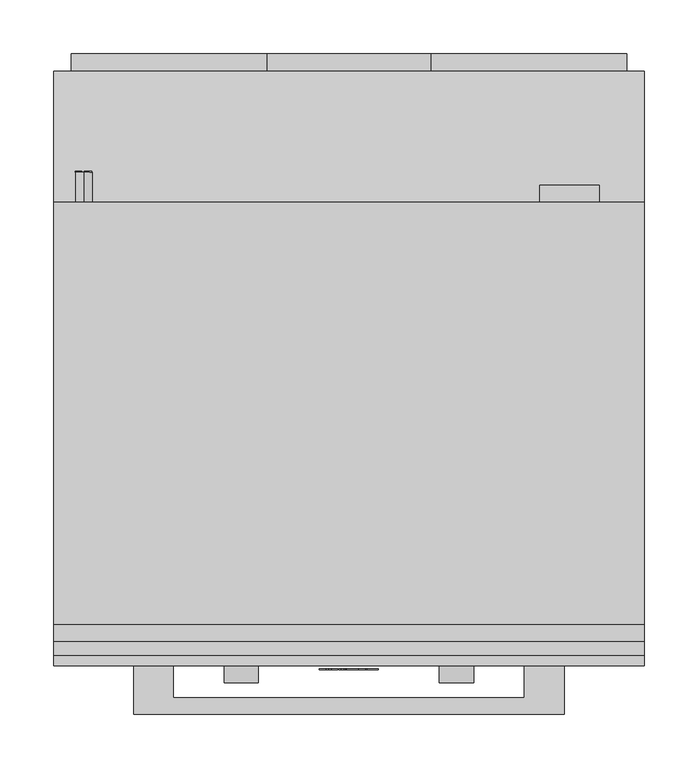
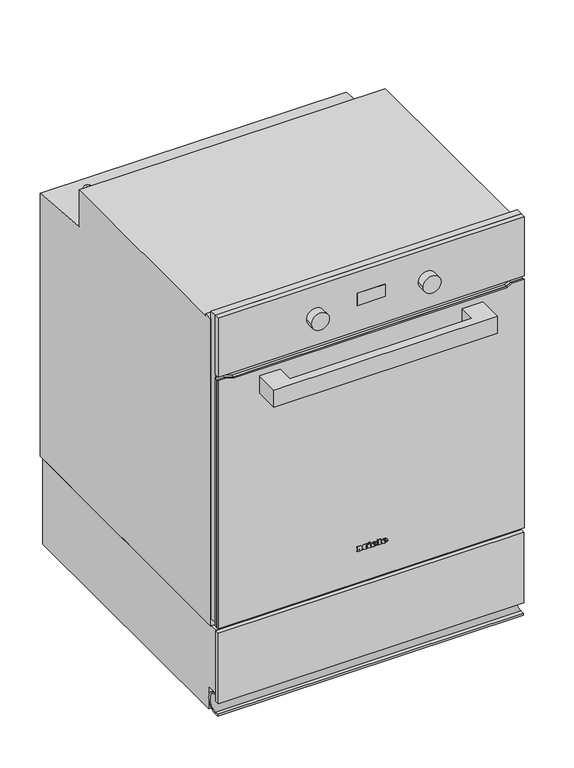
"""IFC4 building model written with IfcOpenShell, lengths in millimetres: proxy geometry, 12446320_9CH_H2456-55BP_OBSW : 22245624_9CH_12446320_H2456-55BP_OBSW."""

from ifc_helpers import new_model, si_unit, point, frame, frame_2d, origin, place, context, project, spatial, polyline, circle_curve, ellipse_curve, trimmed, segment, composite_curve, outline, extrude, faceted_brep, source, transform, mapped, element, save
from ifc_brep_helpers import plane_surface, cylinder_surface, revolved_surface, extruded_surface, advanced_brep


def specialty_equipment_84b892e0(model_context):
    return source(origin(), model_context, "Body", "SolidModel", [
        extrude(outline(polyline([(-273.5, -14.0), (273.5, -14.0), (273.5, -22.0), (-273.5, -22.0), (-273.5, -14.0)])), frame((0.0, 0.0, 28.0), z_axis=(0.0, 0.0, 1.0), x_axis=(1.0, 0.0, 0.0)), (0.0, 0.0, 1.0), 133.5),
        extrude(outline(composite_curve([segment(polyline([(-20.0, 3.3413786), (-20.0, 6.5166751), (-12.6417749, 6.5166751)]), True, "CONTINUOUS"), segment(trimmed(circle_curve(frame_2d((-12.6417749, 23.0333249)), 16.5166498), [point((-12.6417749, 6.5166751))], [point((-11.3579007, 39.5))], True, "CARTESIAN"), True, "CONTINUOUS"), segment(polyline([(-11.3579007, 39.5), (-14.0, 39.5), (-14.0, 42.0), (-12.0, 42.0)]), True, "CONTINUOUS"), segment(trimmed(circle_curve(frame_2d((-12.0, 23.0)), 19.0), [point((-12.0, 42.0))], [point((7.0, 23.0))], False, "CARTESIAN"), True, "CONTINUOUS"), segment(trimmed(circle_curve(frame_2d((-14.9470942, 23.0)), 21.9470942), [point((7.0, 23.0))], [point((3.3965309, 10.9506696))], False, "CARTESIAN"), True, "CONTINUOUS"), segment(trimmed(circle_curve(frame_2d((-12.0, 22.7225846)), 19.381206), [point((3.3965309, 10.9506696))], [point((-12.0, 3.3413786))], False, "CARTESIAN"), True, "CONTINUOUS"), segment(polyline([(-12.0, 3.3413786), (-20.0, 3.3413786)]), True, "CONTINUOUS")], self_intersect=False)), frame((-273.5, 0.0, 0.0), z_axis=(1.0, 0.0, 0.0), x_axis=(0.0, 1.0, 0.0)), (0.0, 0.0, 1.0), 547.0),
        extrude(outline(polyline([(-14.0, 162.0), (522.0, 162.0), (522.0, 0.0), (8.0, 0.0), (8.0, 43.1784801), (-14.0, 43.1784801), (-14.0, 162.0)])), frame((-273.5, 0.0, 0.0), z_axis=(1.0, 0.0, 0.0), x_axis=(0.0, 1.0, 0.0)), (0.0, 0.0, 1.0), 547.0),
        advanced_brep(
        [(21.28, -26.0, 234.133), (21.28, -26.0, 235.042), (27.301, -26.0, 235.042), (16.825, -26.0, 235.042), (19.3, -26.0, 232.0), (27.148, -26.0, 234.133), (24.43, -26.0, 234.133), (22.288, -26.0, 233.125), (21.28, -26.0, 236.194), (21.28, -26.0, 237.175), (22.819, -26.0, 237.175), (22.819, -26.0, 236.194), (21.28, -25.0, 234.133), (22.288, -25.0, 233.125), (24.43, -25.0, 234.133), (27.148, -25.0, 234.133), (19.3, -25.0, 232.0), (16.825, -25.0, 235.042), (27.301, -25.0, 235.042), (21.28, -25.0, 235.042), (21.28, -25.0, 236.194), (22.819, -25.0, 236.194), (22.819, -25.0, 237.175), (21.28, -25.0, 237.175)],
        [
            (0, 1),
            (1, 2),
            (2, 3, ellipse_curve(frame((22.063, -26.0, 235.042), z_axis=(0.0, -1.0, 0.0), x_axis=(-1.0, 0.0, 0.0)), 5.238, 4.329)),
            (3, 4, circle_curve(frame((20.3080491, -26.0, 235.348), z_axis=(0.0, -1.0, 0.0), x_axis=(0.0, 0.0, -1.0)), 3.4964649)),
            (4, 5, circle_curve(frame((21.9581428, -26.0, 237.724), z_axis=(0.0, -1.0, 0.0), x_axis=(0.0, 0.0, -1.0)), 6.3110933)),
            (5, 6),
            (6, 7, circle_curve(frame((22.7279412, -26.0, 234.97), z_axis=(0.0, 1.0, 0.0), x_axis=(0.0, 0.0, -1.0)), 1.896727)),
            (7, 0, circle_curve(frame((22.288, -26.0, 234.133), z_axis=(0.0, 1.0, 0.0), x_axis=(0.0, 0.0, -1.0)), 1.008)),
            (8, 9),
            (9, 10, circle_curve(frame((22.0495, -26.0, 237.175), z_axis=(0.0, 1.0, 0.0), x_axis=(0.0, 0.0, -1.0)), 0.7695)),
            (10, 11),
            (11, 8),
            (12, 13, circle_curve(frame((22.288, -25.0, 234.133), z_axis=(0.0, -1.0, 0.0), x_axis=(0.0, 0.0, -1.0)), 1.008)),
            (13, 14, circle_curve(frame((22.7279412, -25.0, 234.97), z_axis=(0.0, -1.0, 0.0), x_axis=(0.0, 0.0, -1.0)), 1.896727)),
            (14, 15),
            (15, 16, circle_curve(frame((21.9581428, -25.0, 237.724), z_axis=(0.0, 1.0, 0.0), x_axis=(0.0, 0.0, -1.0)), 6.3110933)),
            (16, 17, circle_curve(frame((20.3080491, -25.0, 235.348), z_axis=(0.0, 1.0, 0.0), x_axis=(0.0, 0.0, -1.0)), 3.4964649)),
            (17, 18, ellipse_curve(frame((22.063, -25.0, 235.042), z_axis=(0.0, 1.0, 0.0), x_axis=(-1.0, 0.0, 0.0)), 5.238, 4.329)),
            (18, 19),
            (19, 12),
            (20, 21),
            (21, 22),
            (22, 23, circle_curve(frame((22.0495, -25.0, 237.175), z_axis=(0.0, -1.0, 0.0), x_axis=(0.0, 0.0, -1.0)), 0.7695)),
            (23, 20),
            (0, 12),
            (19, 1),
            (18, 2),
            (5, 15),
            (14, 6),
            (17, 3),
            (13, 7),
            (16, 4),
            (8, 20),
            (23, 9),
            (22, 10),
            (21, 11),
        ],
        [
            plane_surface(frame((21.28, -26.0, 235.042), z_axis=(0.0, -1.0, 0.0), x_axis=(0.0, 0.0, 1.0))),
            plane_surface(frame((21.28, -25.0, 235.042), z_axis=(0.0, 1.0, 0.0), x_axis=(0.0, 0.0, -1.0))),
            plane_surface(frame((21.28, -26.0, 234.133), z_axis=(1.0, 0.0, 0.0), x_axis=(0.0, 1.0, 0.0))),
            plane_surface(frame((21.28, -26.0, 235.042), z_axis=(0.0, 0.0, -1.0), x_axis=(0.0, 1.0, 0.0))),
            plane_surface(frame((27.148, -26.0, 234.133), z_axis=(0.0, 0.0, 1.0), x_axis=(0.0, 1.0, 0.0))),
            extruded_surface(trimmed(ellipse_curve(frame((22.063, -24.0, 235.042), z_axis=(0.0, -1.0, 0.0), x_axis=(-1.0, 0.0, 0.0)), 5.238, 4.329), [point((27.301, -24.0, 235.042))], [point((16.825, -24.0, 235.042))], True, "CARTESIAN"), (0.0, -1.0, 0.0), 1.0),
            revolved_surface(polyline([(22.7279412, -25.0, 233.073273), (22.7279412, -26.0, 233.073273)]), (22.7279412, -25.0, 234.97), (0.0, 1.0, 0.0)),
            revolved_surface(polyline([(22.288, -25.0, 233.125), (22.288, -26.0, 233.125)]), (22.288, -25.0, 234.133), (0.0, 1.0, 0.0)),
            cylinder_surface(frame((20.3080491, -25.0, 235.348), z_axis=(0.0, -1.0, 0.0), x_axis=(0.0, 0.0, -1.0)), 3.4964649),
            cylinder_surface(frame((21.9581428, -25.0, 237.724), z_axis=(0.0, -1.0, 0.0), x_axis=(0.0, 0.0, -1.0)), 6.3110933),
            plane_surface(frame((21.28, -26.0, 236.194), z_axis=(1.0, 0.0, 0.0), x_axis=(0.0, 1.0, 0.0))),
            revolved_surface(polyline([(22.0495, -25.0, 236.40550000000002), (22.0495, -26.0, 236.40550000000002)]), (22.0495, -25.0, 237.175), (0.0, 1.0, 0.0)),
            plane_surface(frame((22.819, -26.0, 237.175), z_axis=(-1.0, 0.0, 0.0), x_axis=(0.0, 1.0, 0.0))),
            plane_surface(frame((22.819, -26.0, 236.194), z_axis=(0.0, 0.0, 1.0), x_axis=(0.0, 1.0, 0.0))),
        ],
        [
            (0, [[1, 2, 3, 4, 5, 6, 7, 8], [9, 10, 11, 12]]),
            (1, [[13, 14, 15, 16, 17, 18, 19, 20], [21, 22, 23, 24]]),
            (2, [[-1, 25, -20, 26]]),
            (3, [[-2, -26, -19, 27]]),
            (4, [[-6, 28, -15, 29]]),
            (5, [[-3, -27, -18, 30]]),
            (6, [[-7, -29, -14, 31]]),
            (7, [[-8, -31, -13, -25]]),
            (8, [[-4, -30, -17, 32]]),
            (9, [[-5, -32, -16, -28]]),
            (10, [[-9, 33, -24, 34]]),
            (11, [[-10, -34, -23, 35]]),
            (12, [[-11, -35, -22, 36]]),
            (13, [[-12, -36, -21, -33]]),
        ],
    ),
        advanced_brep(
        [(2.497, -26.0, 234.133), (2.497, -26.0, 235.042), (8.518, -26.0, 235.042), (-1.958, -26.0, 235.042), (0.517, -26.0, 232.0), (8.365, -26.0, 234.133), (5.647, -26.0, 234.133), (3.505, -26.0, 233.125), (2.497, -26.0, 236.194), (2.497, -26.0, 237.175), (4.036, -26.0, 237.175), (4.036, -26.0, 236.194), (2.497, -25.0, 234.133), (3.505, -25.0, 233.125), (5.647, -25.0, 234.133), (8.365, -25.0, 234.133), (0.517, -25.0, 232.0), (-1.958, -25.0, 235.042), (8.518, -25.0, 235.042), (2.497, -25.0, 235.042), (2.497, -25.0, 236.194), (4.036, -25.0, 236.194), (4.036, -25.0, 237.175), (2.497, -25.0, 237.175)],
        [
            (0, 1),
            (1, 2),
            (2, 3, ellipse_curve(frame((3.28, -26.0, 235.042), z_axis=(0.0, -1.0, 0.0), x_axis=(-1.0, 0.0, 0.0)), 5.238, 4.329)),
            (3, 4, circle_curve(frame((1.5250491, -26.0, 235.348), z_axis=(0.0, -1.0, 0.0), x_axis=(0.0, 0.0, -1.0)), 3.4964649)),
            (4, 5, circle_curve(frame((3.1751428, -26.0, 237.724), z_axis=(0.0, -1.0, 0.0), x_axis=(0.0, 0.0, -1.0)), 6.3110933)),
            (5, 6),
            (6, 7, circle_curve(frame((3.9449412, -26.0, 234.97), z_axis=(0.0, 1.0, 0.0), x_axis=(0.0, 0.0, -1.0)), 1.896727)),
            (7, 0, circle_curve(frame((3.505, -26.0, 234.133), z_axis=(0.0, 1.0, 0.0), x_axis=(0.0, 0.0, -1.0)), 1.008)),
            (8, 9),
            (9, 10, circle_curve(frame((3.2665, -26.0, 237.175), z_axis=(0.0, 1.0, 0.0), x_axis=(0.0, 0.0, -1.0)), 0.7695)),
            (10, 11),
            (11, 8),
            (12, 13, circle_curve(frame((3.505, -25.0, 234.133), z_axis=(0.0, -1.0, 0.0), x_axis=(0.0, 0.0, -1.0)), 1.008)),
            (13, 14, circle_curve(frame((3.9449412, -25.0, 234.97), z_axis=(0.0, -1.0, 0.0), x_axis=(0.0, 0.0, -1.0)), 1.896727)),
            (14, 15),
            (15, 16, circle_curve(frame((3.1751428, -25.0, 237.724), z_axis=(0.0, 1.0, 0.0), x_axis=(0.0, 0.0, -1.0)), 6.3110933)),
            (16, 17, circle_curve(frame((1.5250491, -25.0, 235.348), z_axis=(0.0, 1.0, 0.0), x_axis=(0.0, 0.0, -1.0)), 3.4964649)),
            (17, 18, ellipse_curve(frame((3.28, -25.0, 235.042), z_axis=(0.0, 1.0, 0.0), x_axis=(-1.0, 0.0, 0.0)), 5.238, 4.329)),
            (18, 19),
            (19, 12),
            (20, 21),
            (21, 22),
            (22, 23, circle_curve(frame((3.2665, -25.0, 237.175), z_axis=(0.0, -1.0, 0.0), x_axis=(0.0, 0.0, -1.0)), 0.7695)),
            (23, 20),
            (0, 12),
            (19, 1),
            (18, 2),
            (5, 15),
            (14, 6),
            (17, 3),
            (13, 7),
            (16, 4),
            (8, 20),
            (23, 9),
            (22, 10),
            (21, 11),
        ],
        [
            plane_surface(frame((2.497, -26.0, 235.042), z_axis=(0.0, -1.0, 0.0), x_axis=(0.0, 0.0, 1.0))),
            plane_surface(frame((2.497, -25.0, 235.042), z_axis=(0.0, 1.0, 0.0), x_axis=(0.0, 0.0, -1.0))),
            plane_surface(frame((2.497, -26.0, 234.133), z_axis=(1.0, 0.0, 0.0), x_axis=(0.0, 1.0, 0.0))),
            plane_surface(frame((2.497, -26.0, 235.042), z_axis=(0.0, 0.0, -1.0), x_axis=(0.0, 1.0, 0.0))),
            plane_surface(frame((8.365, -26.0, 234.133), z_axis=(0.0, 0.0, 1.0), x_axis=(0.0, 1.0, 0.0))),
            extruded_surface(trimmed(ellipse_curve(frame((3.28, -24.0, 235.042), z_axis=(0.0, -1.0, 0.0), x_axis=(-1.0, 0.0, 0.0)), 5.238, 4.329), [point((8.518, -24.0, 235.042))], [point((-1.958, -24.0, 235.042))], True, "CARTESIAN"), (0.0, -1.0, 0.0), 1.0),
            revolved_surface(polyline([(3.9449412, -25.0, 233.073273), (3.9449412, -26.0, 233.073273)]), (3.9449412, -25.0, 234.97), (0.0, 1.0, 0.0)),
            revolved_surface(polyline([(3.505, -25.0, 233.125), (3.505, -26.0, 233.125)]), (3.505, -25.0, 234.133), (0.0, 1.0, 0.0)),
            cylinder_surface(frame((1.5250491, -25.0, 235.348), z_axis=(0.0, -1.0, 0.0), x_axis=(0.0, 0.0, -1.0)), 3.4964649),
            cylinder_surface(frame((3.1751428, -25.0, 237.724), z_axis=(0.0, -1.0, 0.0), x_axis=(0.0, 0.0, -1.0)), 6.3110933),
            plane_surface(frame((2.497, -26.0, 236.194), z_axis=(1.0, 0.0, 0.0), x_axis=(0.0, 1.0, 0.0))),
            revolved_surface(polyline([(3.2665, -25.0, 236.40550000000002), (3.2665, -26.0, 236.40550000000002)]), (3.2665, -25.0, 237.175), (0.0, 1.0, 0.0)),
            plane_surface(frame((4.036, -26.0, 237.175), z_axis=(-1.0, 0.0, 0.0), x_axis=(0.0, 1.0, 0.0))),
            plane_surface(frame((4.036, -26.0, 236.194), z_axis=(0.0, 0.0, 1.0), x_axis=(0.0, 1.0, 0.0))),
        ],
        [
            (0, [[1, 2, 3, 4, 5, 6, 7, 8], [9, 10, 11, 12]]),
            (1, [[13, 14, 15, 16, 17, 18, 19, 20], [21, 22, 23, 24]]),
            (2, [[-1, 25, -20, 26]]),
            (3, [[-2, -26, -19, 27]]),
            (4, [[-6, 28, -15, 29]]),
            (5, [[-3, -27, -18, 30]]),
            (6, [[-7, -29, -14, 31]]),
            (7, [[-8, -31, -13, -25]]),
            (8, [[-4, -30, -17, 32]]),
            (9, [[-5, -32, -16, -28]]),
            (10, [[-9, 33, -24, 34]]),
            (11, [[-10, -34, -23, 35]]),
            (12, [[-11, -35, -22, 36]]),
            (13, [[-12, -36, -21, -33]]),
        ],
    ),
        extrude(outline(polyline([(240.469, -7.34), (239.011, -6.656), (240.433, -3.605), (241.891, -4.28), (240.469, -7.34)])), frame((0.0, -26.0, 0.0), z_axis=(0.0, 1.0, 0.0), x_axis=(0.0, 0.0, 1.0)), (0.0, 0.0, 1.0), 1.0),
        extrude(outline(polyline([(238.813, -9.563), (237.202, -9.563), (237.202, -8.492), (233.512, -8.492), (233.512, -9.563), (232.0, -9.563), (232.0, -2.462), (233.512, -2.462), (233.512, -3.506), (238.813, -3.506), (238.813, -9.563)])), frame((0.0, -26.0, 0.0), z_axis=(0.0, 1.0, 0.0), x_axis=(0.0, 0.0, 1.0)), (0.0, 0.0, 1.0), 1.0),
        extrude(outline(polyline([(239.533, 9.022), (239.533, 10.102), (233.512, 10.102), (233.512, 9.022), (232.0, 9.022), (232.0, 16.321), (233.512, 16.321), (233.512, 15.214), (241.0, 15.214), (241.0, 9.022), (239.533, 9.022)])), frame((0.0, -26.0, 0.0), z_axis=(0.0, 1.0, 0.0), x_axis=(0.0, 0.0, 1.0)), (0.0, 0.0, 1.0), 1.0),
        extrude(outline(polyline([(239.533, -27.5), (239.533, -26.411), (233.512, -26.411), (233.512, -27.5), (232.0, -27.5), (232.0, -23.54), (233.512, -23.54), (233.512, -24.62), (237.3341247, -24.62), (232.0, -20.597), (237.4402223, -16.556), (233.512, -16.556), (233.512, -17.663), (232.0, -17.663), (232.0, -10.481), (233.512, -10.481), (233.512, -11.624), (239.533, -11.624), (239.533, -10.481), (241.0, -10.481), (241.0, -15.962), (237.625, -18.59), (241.0, -21.227), (241.0, -27.5), (239.533, -27.5)])), frame((0.0, -26.0, 0.0), z_axis=(0.0, 1.0, 0.0), x_axis=(0.0, 0.0, 1.0)), (0.0, 0.0, 1.0), 1.0),
        extrude(outline(polyline([(-163.0, -22.0), (-163.0, -52.0), (163.0, -52.0), (163.0, -22.0), (200.0, -22.0), (200.0, -67.0), (-200.0, -67.0), (-200.0, -22.0), (-163.0, -22.0)])), frame((0.0, 0.0, 591.1002211), z_axis=(0.0, 0.0, 1.0), x_axis=(1.0, 0.0, 0.0)), (0.0, 0.0, 1.0), 31.8000183),
        extrude(outline(polyline([(639.5, -274.0), (170.0, -274.0), (170.0, 274.0), (639.5, 274.0), (639.5, 252.5209298), (634.5, 244.0), (634.5, -244.0), (639.5, -260.3542631), (639.5, -274.0)])), frame((0.0, -18.0, 0.0), z_axis=(0.0, 1.0, 0.0), x_axis=(0.0, 0.0, 1.0)), (0.0, 0.0, 1.0), 5.0),
        extrude(outline(polyline([(639.5, -274.0), (170.0, -274.0), (170.0, 274.0), (639.5, 274.0), (639.5, 252.5209298), (634.5, 244.0), (634.5, -244.0), (639.5, -260.3542631), (639.5, -274.0)])), frame((0.0, -22.0, 0.0), z_axis=(0.0, 1.0, 0.0), x_axis=(0.0, 0.0, 1.0)), (0.0, 0.0, 1.0), 4.0),
        extrude(outline(polyline([(25.25, -22.0), (-25.25, -22.0), (-25.25, -20.0), (25.25, -20.0), (25.25, -22.0)])), frame((0.0, 0.0, 694.5), z_axis=(0.0, 0.0, 1.0), x_axis=(1.0, 0.0, 0.0)), (0.0, 0.0, 1.0), 23.5),
        faceted_brep([(274.0, -22.0, 758.0), (-274.0, -22.0, 758.0), (-274.0, -22.0, 646.5), (274.0, -22.0, 646.5), (-25.25, -22.0, 718.0), (25.25, -22.0, 718.0), (25.25, -22.0, 694.5), (-25.25, -22.0, 694.5), (274.0, -13.0, 758.0), (274.0, -13.0, 646.5), (-274.0, -13.0, 646.5), (-274.0, -13.0, 758.0), (25.25, -20.0, 718.0), (-25.25, -20.0, 718.0), (-25.25, -20.0, 694.5), (25.25, -20.0, 694.5)], [[[0, 1, 2, 3], [4, 5, 6, 7]], [[8, 9, 10, 11]], [[1, 0, 8, 11]], [[2, 1, 11, 10]], [[3, 2, 10, 9]], [[0, 3, 9, 8]], [[12, 13, 14, 15]], [[13, 12, 5, 4]], [[14, 13, 4, 7]], [[15, 14, 7, 6]], [[12, 15, 6, 5]]]),
        extrude(outline(composite_curve([segment(trimmed(circle_curve(frame_2d((700.5, -100.0)), 16.0), [point((700.5, -116.0))], [point((700.5, -84.0))], False, "CARTESIAN"), True, "CONTINUOUS"), segment(trimmed(circle_curve(frame_2d((700.5, -100.0)), 16.0), [point((700.5, -84.0))], [point((700.5, -116.0))], False, "CARTESIAN"), True, "CONTINUOUS")], self_intersect=False)), frame((0.0, -38.0, 0.0), z_axis=(0.0, 1.0, 0.0), x_axis=(0.0, 0.0, 1.0)), (0.0, 0.0, 1.0), 16.0),
        extrude(outline(composite_curve([segment(trimmed(circle_curve(frame_2d((700.5, 100.0)), 16.0), [point((700.5, 84.0))], [point((700.5, 116.0))], False, "CARTESIAN"), True, "CONTINUOUS"), segment(trimmed(circle_curve(frame_2d((700.5, 100.0)), 16.0), [point((700.5, 116.0))], [point((700.5, 84.0))], False, "CARTESIAN"), True, "CONTINUOUS")], self_intersect=False)), frame((0.0, -38.0, 0.0), z_axis=(0.0, 1.0, 0.0), x_axis=(0.0, 0.0, 1.0)), (0.0, 0.0, 1.0), 16.0),
        faceted_brep([(274.0, 0.0, 162.0), (274.0, 530.0, 162.0), (274.0, 530.0, 659.4219562), (274.0, 408.0, 670.5494875), (274.0, 408.0, 740.0), (274.0, 16.0, 740.0), (274.0, 16.0, 743.0), (274.0, 0.0, 743.0), (-274.0, 0.0, 162.0), (-274.0, 0.0, 743.0), (-274.0, 16.0, 743.0), (-274.0, 16.0, 740.0), (-274.0, 408.0, 740.0), (-274.0, 408.0, 670.5494875), (-274.0, 530.0, 659.4219562), (-274.0, 530.0, 162.0), (-235.0, 0.0, 590.0), (235.0, 0.0, 590.0), (235.0, 0.0, 204.0), (-235.0, 0.0, 204.0), (235.0, 433.0, 590.0), (-235.0, 433.0, 590.0), (-235.0, 433.0, 204.0), (235.0, 433.0, 204.0)], [[[0, 1, 2, 3, 4, 5, 6, 7]], [[8, 9, 10, 11, 12, 13, 14, 15]], [[1, 0, 8, 15]], [[1, 15, 14, 2]], [[11, 5, 4, 12]], [[0, 7, 9, 8], [16, 17, 18, 19]], [[6, 5, 11, 10]], [[7, 6, 10, 9]], [[13, 3, 2, 14]], [[3, 13, 12, 4]], [[20, 21, 22, 23]], [[21, 20, 17, 16]], [[22, 21, 16, 19]], [[23, 22, 19, 18]], [[20, 23, 18, 17]]]),
        extrude(outline(polyline([(720.0464496, -245.8425503), (718.7915157, -245.8425503), (718.7915157, -239.8786472), (715.8088265, -239.8786472), (715.8088265, -245.5253567), (714.5510117, -245.5253567), (714.5510117, -239.8786472), (711.2605911, -239.8786472), (711.2605911, -245.9946301), (709.9978772, -245.9946301), (709.9978772, -238.6251477), (720.0464496, -238.6251477), (720.0464496, -245.8425503)])), frame((0.0, 436.0, 0.0), z_axis=(0.0, 1.0, 0.0), x_axis=(0.0, 0.0, 1.0)), (0.0, 0.0, 1.0), 1.0),
        extrude(outline(polyline([(720.0498619, -249.1372374), (711.2558696, -249.1372374), (711.2558696, -254.1557124), (710.0011788, -254.1557124), (710.0011788, -247.8766443), (720.0498619, -247.8766443), (720.0498619, -249.1372374)])), frame((0.0, 436.0, 0.0), z_axis=(0.0, 1.0, 0.0), x_axis=(0.0, 0.0, 1.0)), (0.0, 0.0, 1.0), 1.0),
        extrude(outline(composite_curve([segment(trimmed(circle_curve(frame_2d((715.0, -246.0)), 7.5), [point((707.5, -246.0))], [point((722.5, -246.0))], False, "CARTESIAN"), True, "CONTINUOUS"), segment(trimmed(circle_curve(frame_2d((715.0, -246.0)), 7.5), [point((722.5, -246.0))], [point((707.5, -246.0))], False, "CARTESIAN"), True, "CONTINUOUS")], self_intersect=False)), frame((0.0, 406.0, 0.0), z_axis=(0.0, 1.0, 0.0), x_axis=(0.0, 0.0, 1.0)), (0.0, 0.0, 1.0), 30.0),
        extrude(outline(polyline([(499.5, 76.0), (540.5, 76.0), (540.5, -76.0), (499.5, -76.0), (499.5, -258.0), (351.6961275, -258.0), (351.6961275, -76.0), (326.5, -76.0), (326.5, 76.0), (351.6961275, 76.0), (351.6961275, 258.0), (499.5, 258.0), (499.5, 76.0)])), frame((0.0, 530.0, 0.0), z_axis=(0.0, 1.0, 0.0), x_axis=(0.0, 0.0, 1.0)), (0.0, 0.0, 1.0), 16.0),
        extrude(outline(polyline([(232.3464926, 408.0), (177.3464926, 408.0), (177.3464926, 424.0), (232.3464926, 424.0), (232.3464926, 408.0)])), frame((0.0, 0.0, 690.0), z_axis=(0.0, 0.0, 1.0), x_axis=(1.0, 0.0, 0.0)), (0.0, 0.0, 1.0), 26.0),
        extrude(outline(polyline([(177.0, 274.0), (758.0, 274.0), (758.0, -274.0), (177.0, -274.0), (177.0, -272.0), (646.0, -272.0), (646.0, 272.0), (177.0, 272.0), (177.0, 274.0)])), frame((0.0, -13.0, 0.0), z_axis=(0.0, 1.0, 0.0), x_axis=(0.0, 0.0, 1.0)), (0.0, 0.0, 1.0), 13.0),
    ])


if __name__ == "__main__":
    model = new_model("IFC4")
    model_context = context("Model", 3, world=origin())
    ifc_project = project(units=[si_unit("LENGTHUNIT", "METRE", prefix="MILLI")], contexts=[model_context])
    site = spatial("IfcSite", under=ifc_project)
    building = spatial("IfcBuilding", under=site)
    placement = place(None, origin())
    specialty_equipment_shape = specialty_equipment_84b892e0(model_context)
    element("IfcBuildingElementProxy", 1, Name="12446320_9CH_H2456-55BP_OBSW : 22245624_9CH_12446320_H2456-55BP_OBSW", ObjectType="12446320_9CH_H2456-55BP_OBSW : 22245624_9CH_12446320_H2456-55BP_OBSW", at=placement, inside=building, context=model_context, shape_type="MappedRepresentation", body=[
        mapped(specialty_equipment_shape, transform((0.0, 0.0, 0.0), x_axis=(1.0, 0.0, 0.0), y_axis=(0.0, 1.0, 0.0), z_axis=(0.0, 0.0, 1.0))),
    ])
    save(model, "model.ifc")
